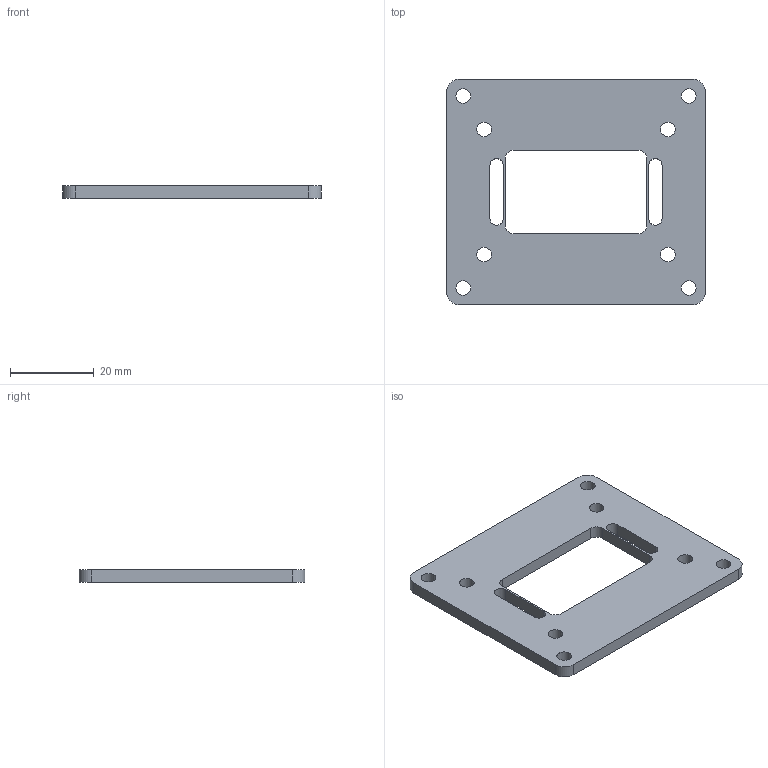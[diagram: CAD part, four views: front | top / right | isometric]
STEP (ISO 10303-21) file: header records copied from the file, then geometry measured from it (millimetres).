
FILE_DESCRIPTION(('Open CASCADE Model'),'2;1');
FILE_NAME('Open CASCADE Shape Model','2026-10-13T11:47:36',('Author'),( 'Open CASCADE'),'Open CASCADE STEP processor 7.8','Open CASCADE 7.8' ,'Unknown');
FILE_SCHEMA(('AUTOMOTIVE_DESIGN { 1 0 10303 214 1 1 1 1 }'));
Length unit declared in the file: millimetre
Products named in the file (1): Open CASCADE STEP translator 7.8 15
Bounding box: 62 x 54 x 3 mm (x, y, z)
Volume: 7466.2 mm3; surface area: 6449.5 mm2
Topology: 1 solids, 1 shells, 34 faces, 96 edges, 64 vertices
Faces by surface type: cylinder 20, plane 14
Full cylindrical faces by diameter (mm): 3.5 x8
Entity records: 2468 total; most frequent: CARTESIAN_POINT 575, DIRECTION 340, ORIENTED_EDGE 192, PCURVE 192, DEFINITIONAL_REPRESENTATION 192, LINE 176, VECTOR 176, EDGE_CURVE 96
